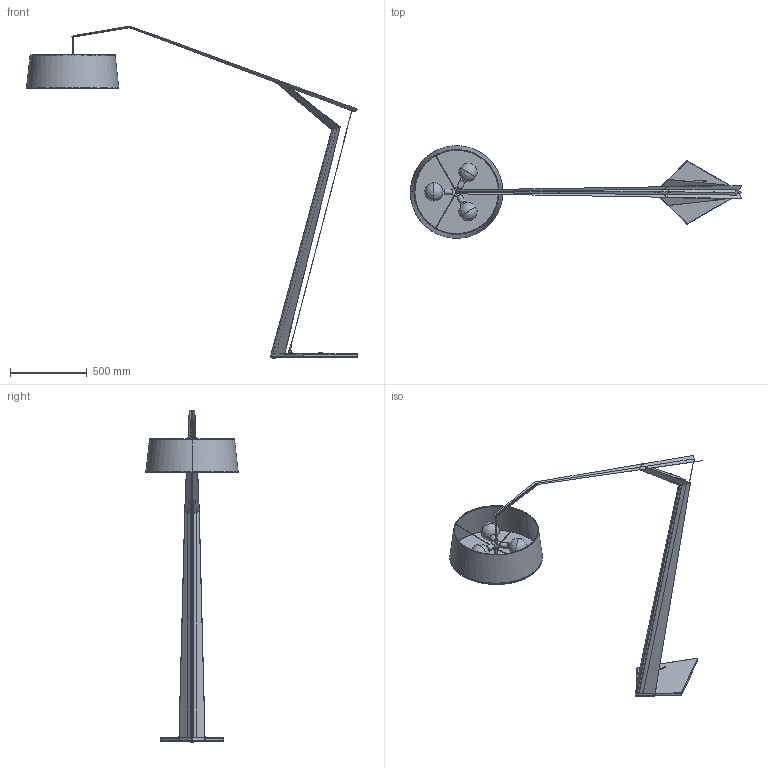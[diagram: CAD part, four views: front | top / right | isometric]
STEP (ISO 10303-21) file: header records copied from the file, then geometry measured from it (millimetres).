
FILE_DESCRIPTION(/* description */ (''),/* implementation_level */ '2;1');
FILE_NAME(/* name */ 'LCI_GRUS',/* time_stamp */ '2015-09-02T11:36:16+02:00',/* author */ (''),/* organization */ (''),/* preprocessor_version */ 'ST-DEVELOPER v15',/* originating_system */ '',/* authorisation */ '');
FILE_SCHEMA (('AUTOMOTIVE_DESIGN'));
Length unit declared in the file: millimetre
Products named in the file (1): Document
Bounding box: 2153.75 x 601.1 x 2157.73 mm (x, y, z)
Volume: 3990962.1 mm3; surface area: 2601986.8 mm2
Topology: 43 solids, 53 shells, 457 faces, 1036 edges, 616 vertices
Faces by surface type: bspline 283, plane 174
Entity records: 16286 total; most frequent: CARTESIAN_POINT 10220, ORIENTED_EDGE 1919, EDGE_CURVE 997, VERTEX_POINT 615, EDGE_LOOP 502, ADVANCED_FACE 457, FACE_OUTER_BOUND 457, B_SPLINE_CURVE_WITH_KNOTS 349
